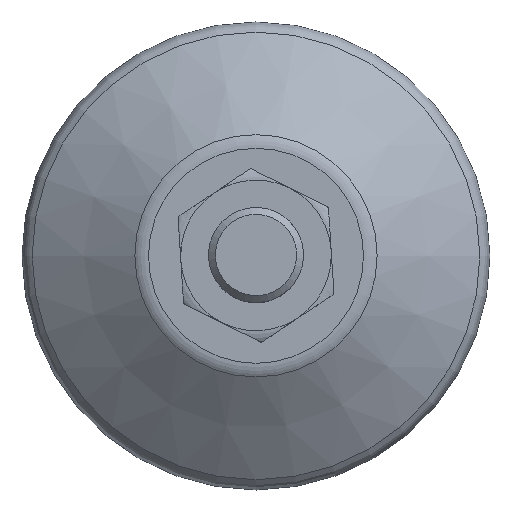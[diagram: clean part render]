
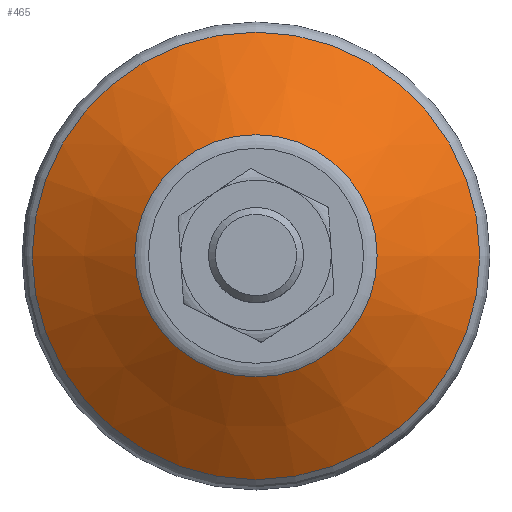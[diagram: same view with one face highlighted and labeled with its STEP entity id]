
A CAD part, top view. The second image highlights one B-rep face of the part: STEP entity #465.
In plain terms, the highlighted conical face has half-angle 55.008 degrees and reference radius 15.275 mm.
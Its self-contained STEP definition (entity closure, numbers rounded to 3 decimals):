
#465=ADVANCED_FACE('',(#778,#779),#780,.T.);
#778=FACE_BOUND('',#1075,.T.);
#779=FACE_OUTER_BOUND('',#1076,.T.);
#780=CONICAL_SURFACE('',#1077,15.275,0.96);
#1075=EDGE_LOOP('',(#1673));
#1076=EDGE_LOOP('',(#1674));
#1077=AXIS2_PLACEMENT_3D('',#1675,#1676,#1677);
#1673=ORIENTED_EDGE('',*,*,#1949,.T.);
#1674=ORIENTED_EDGE('',*,*,#1947,.F.);
#1675=CARTESIAN_POINT('',(0.0,0.0,17.458));
#1676=DIRECTION('',(-0.0,0.0,-1.0));
#1677=DIRECTION('',(-1.0,0.0,0.0));
#1947=EDGE_CURVE('',#2266,#2266,#2267,.T.);
#1949=EDGE_CURVE('',#2269,#2269,#2270,.T.);
#2266=VERTEX_POINT('',#3196);
#2267=CIRCLE('',#3197,28.22);
#2269=VERTEX_POINT('',#3199);
#2270=CIRCLE('',#3200,15.275);
#3196=CARTESIAN_POINT('',(-28.22,0.0,8.396));
#3197=AXIS2_PLACEMENT_3D('',#3447,#3448,#3449);
#3199=CARTESIAN_POINT('',(-15.275,0.0,17.458));
#3200=AXIS2_PLACEMENT_3D('',#3450,#3451,#3452);
#3447=CARTESIAN_POINT('',(0.0,0.0,8.396));
#3448=DIRECTION('',(0.0,0.0,-1.0));
#3449=DIRECTION('',(-1.0,0.0,0.0));
#3450=CARTESIAN_POINT('',(0.0,0.0,17.458));
#3451=DIRECTION('',(0.0,0.0,-1.0));
#3452=DIRECTION('',(-1.0,0.0,0.0));
